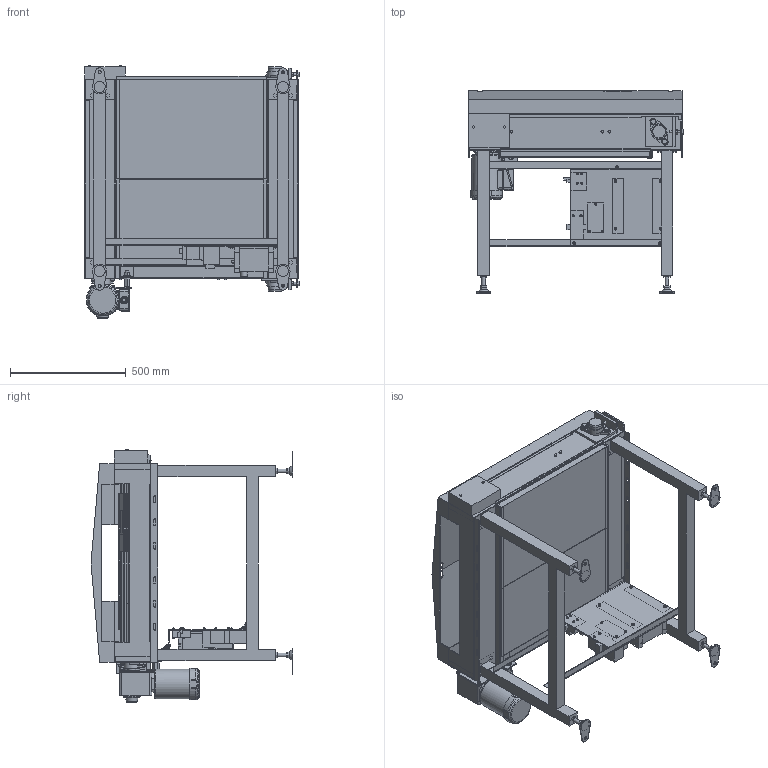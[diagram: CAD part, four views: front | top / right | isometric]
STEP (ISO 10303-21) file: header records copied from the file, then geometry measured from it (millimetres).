
FILE_DESCRIPTION( (''), '2;1');
FILE_NAME ('WEB-SLS-H-340-2-250-350-R-IVH-7.5.stp','2026-08-20T08:46:41',(''),(''),'spGate 21.9.5 (****-****-****-****)','','');
FILE_SCHEMA (('AUTOMOTIVE_DESIGN'));
Length unit declared in the file: millimetre
Products named in the file (88): WEB-SLS-H-340-2-250-350-R-IVH-7.5; TEMP_X_T-prt0; TEMP_X_T-prt1; TEMP_X_T-prt2; TEMP_X_T-prt3; TEMP_X_T-prt4; TEMP_X_T-prt5; TEMP_X_T-prt6; TEMP_X_T-prt7; TEMP_X_T-prt8; TEMP_X_T-prt9; TEMP_X_T-prt10; TEMP_X_T-prt11; TEMP_X_T-prt12; TEMP_X_T-prt13; TEMP_X_T-prt14; TEMP_X_T-prt15; TEMP_X_T-prt16; TEMP_X_T-prt17; TEMP_X_T-prt18; TEMP_X_T-prt19; TEMP_X_T-prt20; TEMP_X_T-prt21; TEMP_X_T-prt22; TEMP_X_T-prt23; TEMP_X_T-prt24; TEMP_X_T-prt25; TEMP_X_T-prt26; TEMP_X_T-prt27; TEMP_X_T-prt28; TEMP_X_T-prt29; TEMP_X_T-prt30; TEMP_X_T-prt31; TEMP_X_T-prt32; TEMP_X_T-prt33; TEMP_X_T-prt34; TEMP_X_T-prt35; TEMP_X_T-prt36; TEMP_X_T-prt37; TEMP_X_T-prt38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
Assembly tree (87 placements, depth 2):
  WEB-SLS-H-340-2-250-350-R-IVH-7.5
    TEMP_X_T-prt0
    TEMP_X_T-prt1
    TEMP_X_T-prt2
    TEMP_X_T-prt3
    TEMP_X_T-prt4
    TEMP_X_T-prt5
    TEMP_X_T-prt6
    TEMP_X_T-prt7
    TEMP_X_T-prt8
    TEMP_X_T-prt9
    TEMP_X_T-prt10
    TEMP_X_T-prt11
    TEMP_X_T-prt12
    TEMP_X_T-prt13
    TEMP_X_T-prt14
    TEMP_X_T-prt15
    TEMP_X_T-prt16
    TEMP_X_T-prt17
    TEMP_X_T-prt18
    TEMP_X_T-prt19
    TEMP_X_T-prt20
    TEMP_X_T-prt21
    TEMP_X_T-prt22
    TEMP_X_T-prt23
    TEMP_X_T-prt24
    TEMP_X_T-prt25
    TEMP_X_T-prt26
    TEMP_X_T-prt27
    TEMP_X_T-prt28
    TEMP_X_T-prt29
    TEMP_X_T-prt30
    TEMP_X_T-prt31
    TEMP_X_T-prt32
    TEMP_X_T-prt33
    TEMP_X_T-prt34
    TEMP_X_T-prt35
    TEMP_X_T-prt36
    TEMP_X_T-prt37
    TEMP_X_T-prt38
    TEMP_X_T-prt39
    TEMP_X_T-prt40
    TEMP_X_T-prt41
    TEMP_X_T-prt42
    TEMP_X_T-prt43
    TEMP_X_T-prt44
    TEMP_X_T-prt45
    TEMP_X_T-prt46
    TEMP_X_T-prt47
    TEMP_X_T-prt48
    TEMP_X_T-prt49
    TEMP_X_T-prt50
    TEMP_X_T-prt51
    TEMP_X_T-prt52
    TEMP_X_T-prt53
    TEMP_X_T-prt54
    TEMP_X_T-prt55
    TEMP_X_T-prt56
    TEMP_X_T-prt57
    TEMP_X_T-prt58
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Bounding box: 926 x 870.6 x 1089.5 mm (x, y, z)
Volume: 53277391.1 mm3; surface area: 10976603.9 mm2
Topology: 87 solids, 87 shells, 2731 faces, 7038 edges, 4636 vertices
Faces by surface type: plane 2106, cylinder 506, bspline 115, sphere 4
Full cylindrical faces by diameter (mm): 4 x14, 4.15 x1, 5 x4, 6 x14, 8 x6, 8.376 x4, 8.5 x6, 9 x4, 9.2 x5, 10.5 x4, 11 x4, 11.8 x4, 12 x2, 12.2 x18, 12.5 x21, 13 x8, 14 x8, 15.4 x1, 16 x16, 18 x1, 20 x1, 21 x6, 22.2 x1, 23 x1, 24 x1, 25 x1, 28 x1, 30 x1, 30.5 x1, 34 x1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
Entity records: 144571 total; most frequent: CARTESIAN_POINT 18334, ORIENTED_EDGE 14068, DIRECTION 13668, COLOUR_RGB 9852, PRESENTATION_STYLE_ASSIGNMENT 9852, STYLED_ITEM 9852, EDGE_CURVE 7034, DRAUGHTING_PRE_DEFINED_CURVE_FONT 7034
